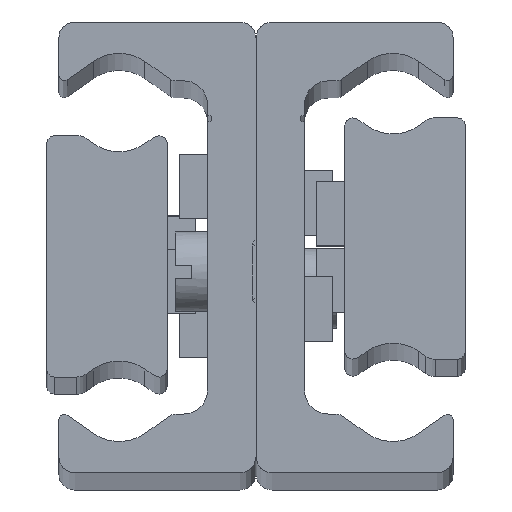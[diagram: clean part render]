
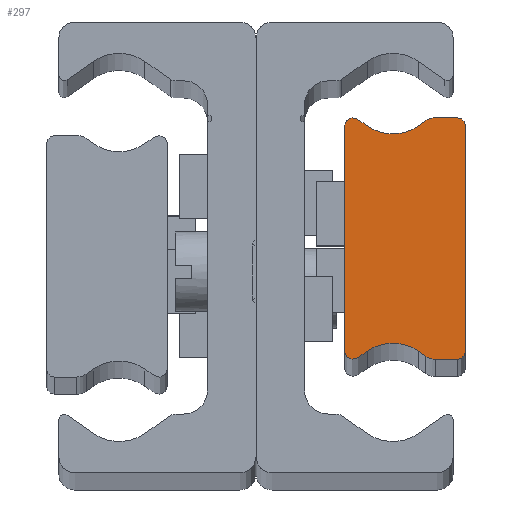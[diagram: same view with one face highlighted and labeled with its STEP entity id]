
A CAD part, top view. The second image highlights one B-rep face of the part: STEP entity #297.
In plain terms, the highlighted planar face has unit normal (0, 0, 1) as drawn and (0, 0, -1) by its records, which use the part's own axes.
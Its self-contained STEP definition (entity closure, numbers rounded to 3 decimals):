
#297 = ADVANCED_FACE( '', ( #679 ), #680, .F. );
#679 = FACE_OUTER_BOUND( '', #1237, .T. );
#680 = PLANE( '', #1238 );
#1237 = EDGE_LOOP( '', ( #1893, #1894, #1895, #1896, #1897, #1898, #1899, #1900, #1901, #1902, #1903, #1904, #1905, #1906, #1907, #1908 ) );
#1238 = AXIS2_PLACEMENT_3D( '', #1909, #1910, #1911 );
#1893 = ORIENTED_EDGE( '', *, *, #3067, .F. );
#1894 = ORIENTED_EDGE( '', *, *, #3042, .F. );
#1895 = ORIENTED_EDGE( '', *, *, #3068, .F. );
#1896 = ORIENTED_EDGE( '', *, *, #2954, .F. );
#1897 = ORIENTED_EDGE( '', *, *, #3069, .F. );
#1898 = ORIENTED_EDGE( '', *, *, #3050, .T. );
#1899 = ORIENTED_EDGE( '', *, *, #3070, .F. );
#1900 = ORIENTED_EDGE( '', *, *, #3071, .F. );
#1901 = ORIENTED_EDGE( '', *, *, #3072, .F. );
#1902 = ORIENTED_EDGE( '', *, *, #3073, .F. );
#1903 = ORIENTED_EDGE( '', *, *, #3074, .F. );
#1904 = ORIENTED_EDGE( '', *, *, #3075, .T. );
#1905 = ORIENTED_EDGE( '', *, *, #3076, .F. );
#1906 = ORIENTED_EDGE( '', *, *, #3077, .F. );
#1907 = ORIENTED_EDGE( '', *, *, #3078, .F. );
#1908 = ORIENTED_EDGE( '', *, *, #3079, .F. );
#1909 = CARTESIAN_POINT( '', ( 0.5, -7., -610. ) );
#1910 = DIRECTION( '', ( 0., 0., 1. ) );
#1911 = DIRECTION( '', ( 1., 0., 0. ) );
#2954 = EDGE_CURVE( '', #3432, #3434, #3435, .T. );
#3042 = EDGE_CURVE( '', #3585, #3587, #3588, .T. );
#3050 = EDGE_CURVE( '', #3601, #3599, #3602, .T. );
#3067 = EDGE_CURVE( '', #3587, #3629, #3630, .T. );
#3068 = EDGE_CURVE( '', #3434, #3585, #3631, .T. );
#3069 = EDGE_CURVE( '', #3601, #3432, #3632, .T. );
#3070 = EDGE_CURVE( '', #3633, #3599, #3634, .T. );
#3071 = EDGE_CURVE( '', #3635, #3633, #3636, .T. );
#3072 = EDGE_CURVE( '', #3637, #3635, #3638, .T. );
#3073 = EDGE_CURVE( '', #3639, #3637, #3640, .T. );
#3074 = EDGE_CURVE( '', #3641, #3639, #3642, .T. );
#3075 = EDGE_CURVE( '', #3641, #3643, #3644, .T. );
#3076 = EDGE_CURVE( '', #3645, #3643, #3646, .T. );
#3077 = EDGE_CURVE( '', #3647, #3645, #3648, .T. );
#3078 = EDGE_CURVE( '', #3649, #3647, #3650, .T. );
#3079 = EDGE_CURVE( '', #3629, #3649, #3651, .T. );
#3432 = VERTEX_POINT( '', #4149 );
#3434 = VERTEX_POINT( '', #4152 );
#3435 = CIRCLE( '', #4153, 1. );
#3585 = VERTEX_POINT( '', #4334 );
#3587 = VERTEX_POINT( '', #4337 );
#3588 = CIRCLE( '', #4338, 0.5 );
#3599 = VERTEX_POINT( '', #4350 );
#3601 = VERTEX_POINT( '', #4353 );
#3602 = CIRCLE( '', #4354, 2.778 );
#3629 = VERTEX_POINT( '', #4389 );
#3630 = LINE( '', #4390, #4391 );
#3631 = LINE( '', #4392, #4393 );
#3632 = LINE( '', #4394, #4395 );
#3633 = VERTEX_POINT( '', #4396 );
#3634 = LINE( '', #4397, #4398 );
#3635 = VERTEX_POINT( '', #4399 );
#3636 = CIRCLE( '', #4400, 0.523 );
#3637 = VERTEX_POINT( '', #4401 );
#3638 = LINE( '', #4402, #4403 );
#3639 = VERTEX_POINT( '', #4404 );
#3640 = CIRCLE( '', #4405, 0.523 );
#3641 = VERTEX_POINT( '', #4406 );
#3642 = LINE( '', #4407, #4408 );
#3643 = VERTEX_POINT( '', #4409 );
#3644 = CIRCLE( '', #4410, 2.778 );
#3645 = VERTEX_POINT( '', #4411 );
#3646 = LINE( '', #4412, #4413 );
#3647 = VERTEX_POINT( '', #4414 );
#3648 = CIRCLE( '', #4415, 1. );
#3649 = VERTEX_POINT( '', #4416 );
#3650 = LINE( '', #4417, #4418 );
#3651 = CIRCLE( '', #4419, 0.5 );
#4149 = CARTESIAN_POINT( '', ( 2.446, 7.319, -610. ) );
#4152 = CARTESIAN_POINT( '', ( 1.873, 7.5, -610. ) );
#4153 = AXIS2_PLACEMENT_3D( '', #5062, #5063, #5064 );
#4334 = CARTESIAN_POINT( '', ( 0.5, 7.5, -610. ) );
#4337 = CARTESIAN_POINT( '', ( 0., 7., -610. ) );
#4338 = AXIS2_PLACEMENT_3D( '', #5196, #5197, #5198 );
#4350 = CARTESIAN_POINT( '', ( 6.093, 6.997, -610. ) );
#4353 = CARTESIAN_POINT( '', ( 2.907, 6.997, -610. ) );
#4354 = AXIS2_PLACEMENT_3D( '', #5210, #5211, #5212 );
#4389 = CARTESIAN_POINT( '', ( 0., -7., -610. ) );
#4390 = CARTESIAN_POINT( '', ( 0., 7., -610. ) );
#4391 = VECTOR( '', #5239, 1000. );
#4392 = CARTESIAN_POINT( '', ( 1.873, 7.5, -610. ) );
#4393 = VECTOR( '', #5240, 1000. );
#4394 = CARTESIAN_POINT( '', ( 2.907, 6.997, -610. ) );
#4395 = VECTOR( '', #5241, 1000. );
#4396 = CARTESIAN_POINT( '', ( 6.677, 7.405, -610. ) );
#4397 = CARTESIAN_POINT( '', ( 6.677, 7.405, -610. ) );
#4398 = VECTOR( '', #5242, 1000. );
#4399 = CARTESIAN_POINT( '', ( 7.5, 6.977, -610. ) );
#4400 = AXIS2_PLACEMENT_3D( '', #5243, #5244, #5245 );
#4401 = CARTESIAN_POINT( '', ( 7.5, -6.977, -610. ) );
#4402 = CARTESIAN_POINT( '', ( 7.5, -6.977, -610. ) );
#4403 = VECTOR( '', #5246, 1000. );
#4404 = CARTESIAN_POINT( '', ( 6.677, -7.405, -610. ) );
#4405 = AXIS2_PLACEMENT_3D( '', #5247, #5248, #5249 );
#4406 = CARTESIAN_POINT( '', ( 6.093, -6.997, -610. ) );
#4407 = CARTESIAN_POINT( '', ( 6.093, -6.997, -610. ) );
#4408 = VECTOR( '', #5250, 1000. );
#4409 = CARTESIAN_POINT( '', ( 2.907, -6.997, -610. ) );
#4410 = AXIS2_PLACEMENT_3D( '', #5251, #5252, #5253 );
#4411 = CARTESIAN_POINT( '', ( 2.446, -7.319, -610. ) );
#4412 = CARTESIAN_POINT( '', ( 2.446, -7.319, -610. ) );
#4413 = VECTOR( '', #5254, 1000. );
#4414 = CARTESIAN_POINT( '', ( 1.873, -7.5, -610. ) );
#4415 = AXIS2_PLACEMENT_3D( '', #5255, #5256, #5257 );
#4416 = CARTESIAN_POINT( '', ( 0.5, -7.5, -610. ) );
#4417 = CARTESIAN_POINT( '', ( 0.5, -7.5, -610. ) );
#4418 = VECTOR( '', #5258, 1000. );
#4419 = AXIS2_PLACEMENT_3D( '', #5259, #5260, #5261 );
#5062 = CARTESIAN_POINT( '', ( 1.873, 6.5, -610. ) );
#5063 = DIRECTION( '', ( 0., 0., 1. ) );
#5064 = DIRECTION( '', ( 1., 0., 0. ) );
#5196 = CARTESIAN_POINT( '', ( 0.5, 7., -610. ) );
#5197 = DIRECTION( '', ( 0., 0., 1. ) );
#5198 = DIRECTION( '', ( 1., 0., 0. ) );
#5210 = CARTESIAN_POINT( '', ( 4.5, 9.272, -610. ) );
#5211 = DIRECTION( '', ( 0., 0., 1. ) );
#5212 = DIRECTION( '', ( 1., 0., 0. ) );
#5239 = DIRECTION( '', ( 0., -1., 0. ) );
#5240 = DIRECTION( '', ( -1., 0., 0. ) );
#5241 = DIRECTION( '', ( -0.819, 0.574, 0. ) );
#5242 = DIRECTION( '', ( -0.819, -0.574, 0. ) );
#5243 = CARTESIAN_POINT( '', ( 6.977, 6.977, -610. ) );
#5244 = DIRECTION( '', ( 0., 0., 1. ) );
#5245 = DIRECTION( '', ( 1., 0., 0. ) );
#5246 = DIRECTION( '', ( 0., 1., 0. ) );
#5247 = CARTESIAN_POINT( '', ( 6.977, -6.977, -610. ) );
#5248 = DIRECTION( '', ( 0., 0., 1. ) );
#5249 = DIRECTION( '', ( 1., 0., 0. ) );
#5250 = DIRECTION( '', ( 0.819, -0.574, 0. ) );
#5251 = CARTESIAN_POINT( '', ( 4.5, -9.272, -610. ) );
#5252 = DIRECTION( '', ( 0., 0., 1. ) );
#5253 = DIRECTION( '', ( 1., 0., 0. ) );
#5254 = DIRECTION( '', ( 0.819, 0.574, 0. ) );
#5255 = CARTESIAN_POINT( '', ( 1.873, -6.5, -610. ) );
#5256 = DIRECTION( '', ( 0., 0., 1. ) );
#5257 = DIRECTION( '', ( 1., 0., 0. ) );
#5258 = DIRECTION( '', ( 1., 0., 0. ) );
#5259 = CARTESIAN_POINT( '', ( 0.5, -7., -610. ) );
#5260 = DIRECTION( '', ( 0., 0., 1. ) );
#5261 = DIRECTION( '', ( 1., 0., 0. ) );
